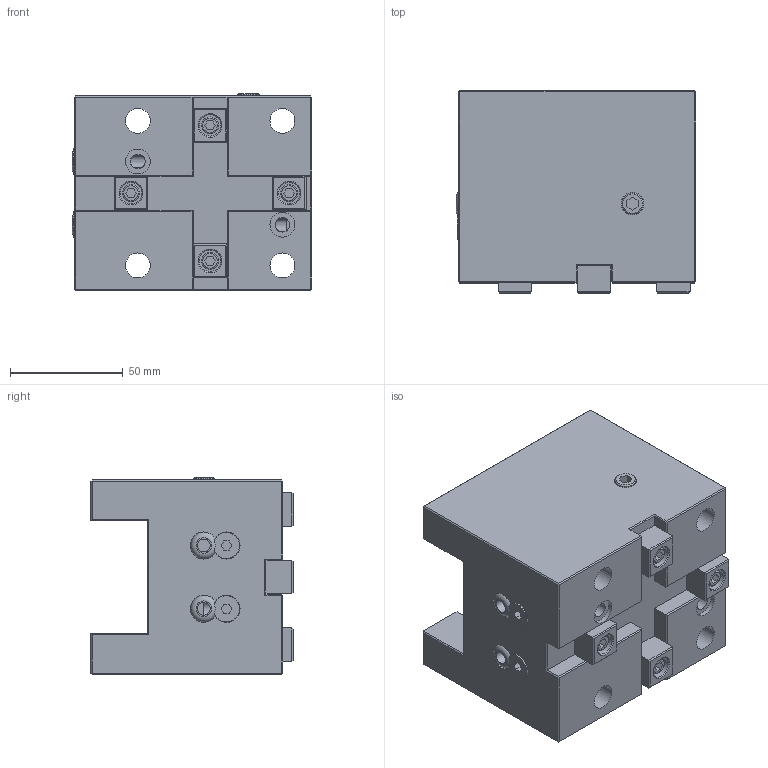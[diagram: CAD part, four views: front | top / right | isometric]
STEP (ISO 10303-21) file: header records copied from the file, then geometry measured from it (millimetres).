
FILE_DESCRIPTION(/* description */ (''),/* implementation_level */ '2;1');
FILE_NAME(/* name */ 'BMT55 F552560.stp',/* time_stamp */ '2024-12-18T10:36:07+03:00',/* author */ ('OborotistovI'),/* organization */ (''),/* preprocessor_version */ 'ST-DEVELOPER v19.2',/* originating_system */ 'Autodesk Inventor 2024',/* authorisation */ '');
FILE_SCHEMA (('AUTOMOTIVE_DESIGN { 1 0 10303 214 3 1 1 }'));
Length unit declared in the file: millimetre
Products named in the file (1): Держатель торцевого 
инструмента BMT55-F8525 , стационарный,
 осевой
Bounding box: 106 x 89.5 x 87 mm (x, y, z)
Volume: 560134.5 mm3; surface area: 80395.8 mm2
Topology: 1 solids, 1 shells, 268 faces, 613 edges, 378 vertices
Faces by surface type: plane 212, cylinder 37, cone 13, torus 6
Full cylindrical faces by diameter (mm): 5.7 x2, 6.5 x2, 6.8 x4, 7.5 x4, 9.5 x4, 9.6 x1, 10 x1, 11 x6, 18 x4
Entity records: 7688 total; most frequent: CARTESIAN_POINT 1409, DIRECTION 1246, ORIENTED_EDGE 1226, EDGE_CURVE 613, LINE 464, VECTOR 464, AXIS2_PLACEMENT_3D 391, VERTEX_POINT 378
